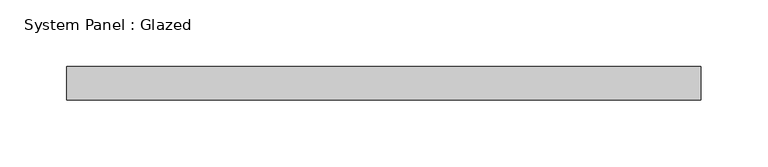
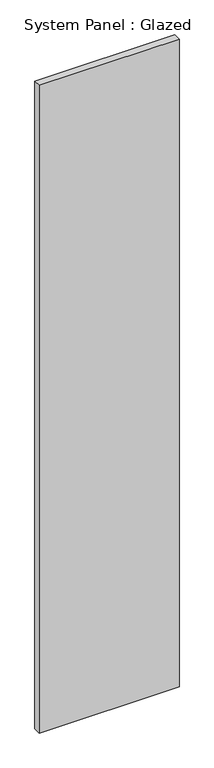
"""IFC4 building model written with IfcOpenShell, lengths in millimetres: plate geometry, System Panel : Glazed."""

from ifc_helpers import new_model, si_unit, origin, origin_with_axes, place, context, project, spatial, polyline, outline, extrude, source, transform, mapped, element, save


def system_panel_glazed_7b139e0c(model_context):
    return source(origin(), model_context, "Body", "SweptSolid", [
        extrude(outline(polyline([(237.5, 24.5), (-237.5, 24.5), (-237.5, 49.5), (237.5, 49.5), (237.5, 24.5)])), origin_with_axes(), (0.0, 0.0, 1.0), 2325.0),
    ])


if __name__ == "__main__":
    model = new_model("IFC4")
    model_context = context("Model", 3, world=origin())
    ifc_project = project(units=[si_unit("LENGTHUNIT", "METRE", prefix="MILLI")], contexts=[model_context])
    site = spatial("IfcSite", under=ifc_project)
    building = spatial("IfcBuilding", under=site)
    placement = place(None, origin())
    system_panel_glazed_shape = system_panel_glazed_7b139e0c(model_context)
    element("IfcPlate", 1, ObjectType="System Panel : Glazed", at=placement, inside=building, context=model_context, shape_type="MappedRepresentation", body=[
        mapped(system_panel_glazed_shape, transform((0.0, 0.0, 0.0), x_axis=(1.0, 0.0, 0.0), y_axis=(0.0, 1.0, 0.0), z_axis=(0.0, 0.0, 1.0))),
    ])
    save(model, "model.ifc")
